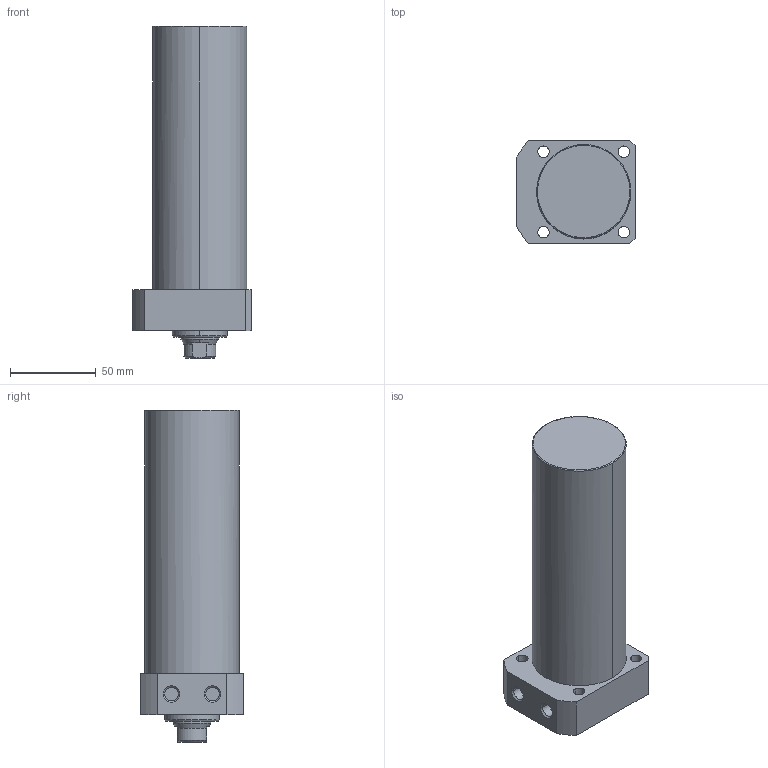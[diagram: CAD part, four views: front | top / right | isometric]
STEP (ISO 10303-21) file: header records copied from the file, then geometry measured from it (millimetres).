
FILE_DESCRIPTION((' '),'2;1');
FILE_NAME( 'TLLR-055CA-125.STEP.stp', '2025-10-24T16:34:43', (' '), ('--- Datakit www.datakit.com---'), ' Datakit CrossCadWare V2024.1 Dec 21 2023', 'Mastercam 2025', ' ');
FILE_SCHEMA(('AUTOMOTIVE_DESIGN { 1 0 10303 214 1 1 1 1 }'));
Length unit declared in the file: millimetre
Products named in the file (1): TLLR-055CA-125
Bounding box: 69 x 60 x 194 mm (x, y, z)
Volume: 463505.2 mm3; surface area: 44896.3 mm2
Topology: 1 solids, 1 shells, 63 faces, 177 edges, 122 vertices
Faces by surface type: cylinder 28, plane 19, cone 14, torus 2
Entity records: 2164 total; most frequent: CARTESIAN_POINT 401, DIRECTION 400, ORIENTED_EDGE 350, EDGE_CURVE 175, AXIS2_PLACEMENT_3D 169, VERTEX_POINT 122, CIRCLE 105, EDGE_LOOP 79
